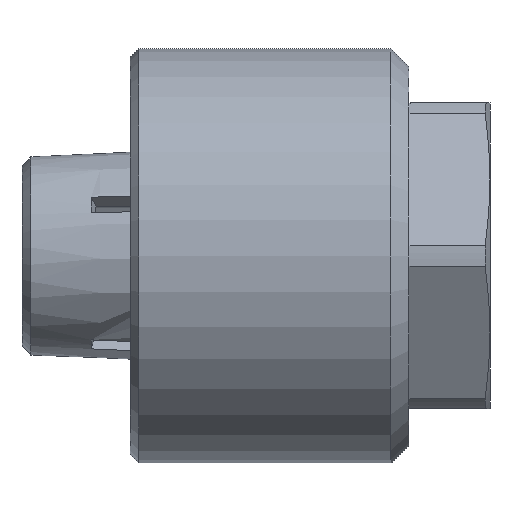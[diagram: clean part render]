
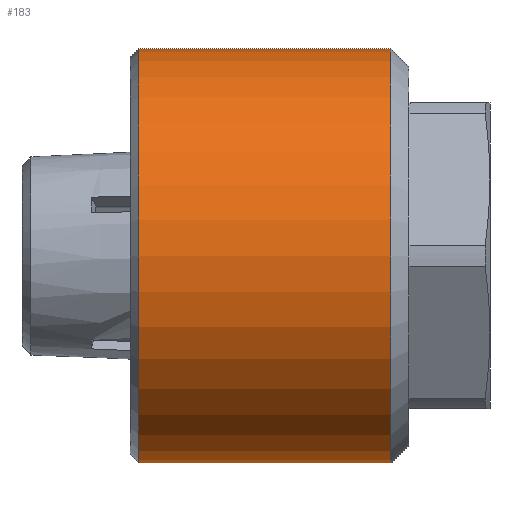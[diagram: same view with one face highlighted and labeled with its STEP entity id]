
A CAD part, front view. The second image highlights one B-rep face of the part: STEP entity #183.
In plain terms, the highlighted cylindrical face has radius 11.5 mm (diameter 23 mm), a full revolution.
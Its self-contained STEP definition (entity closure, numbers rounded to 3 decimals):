
#183=ADVANCED_FACE('',(#406,#408),#410,.T.);
#406=FACE_OUTER_BOUND('',#407,.T.);
#407=EDGE_LOOP('',(#1030));
#408=FACE_OUTER_BOUND('',#409,.T.);
#409=EDGE_LOOP('',(#1031));
#410=CYLINDRICAL_SURFACE('',#411,11.5);
#411=AXIS2_PLACEMENT_3D('',#412,#413,#414);
#412=CARTESIAN_POINT('',(-20.,0.,0.));
#413=DIRECTION('',(1.,0.,0.));
#414=DIRECTION('',(0.,1.,0.));
#1030=ORIENTED_EDGE('',*,*,#1415,.T.);
#1031=ORIENTED_EDGE('',*,*,#1416,.T.);
#1415=EDGE_CURVE('',#1665,#1665,#1666,.F.);
#1416=EDGE_CURVE('',#1667,#1667,#1668,.T.);
#1665=VERTEX_POINT('',#2384);
#1666=CIRCLE('',#2385,11.5);
#1667=VERTEX_POINT('',#2389);
#1668=CIRCLE('',#2390,11.5);
#2384=CARTESIAN_POINT('',(-5.5,11.5,0.));
#2385=AXIS2_PLACEMENT_3D('',#2386,#2387,#2388);
#2386=CARTESIAN_POINT('',(-5.5,0.,0.));
#2387=DIRECTION('',(1.,0.,0.));
#2388=DIRECTION('',(0.,1.,0.));
#2389=CARTESIAN_POINT('',(-19.5,11.5,0.));
#2390=AXIS2_PLACEMENT_3D('',#2391,#2392,#2393);
#2391=CARTESIAN_POINT('',(-19.5,0.,0.));
#2392=DIRECTION('',(1.,0.,0.));
#2393=DIRECTION('',(0.,1.,0.));
